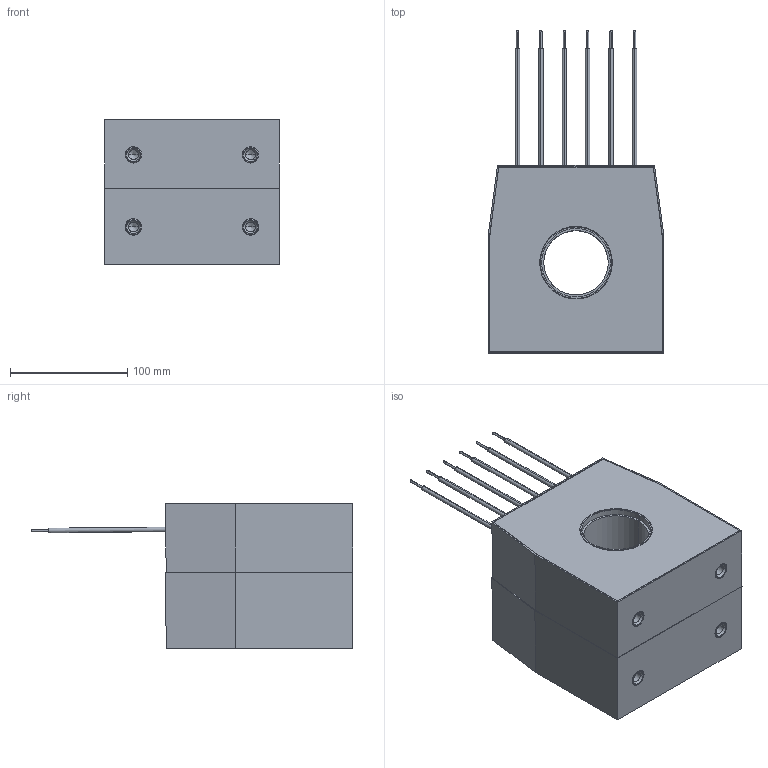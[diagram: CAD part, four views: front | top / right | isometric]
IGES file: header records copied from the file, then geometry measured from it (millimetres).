
Start section: IGES file generated from Kompas f.0 for Windows drawing by the IGES translator from Ascon Ltd., translator version IGESOUT-5.1.
Global section: file name: C:\Ðàáîòà\Èçâåùåíèÿ 5\ÒØÏ-ÍÒÇ-0.66-61...,71...,81... (ñáîðíûé)\Âåðñèÿ îò 21.05.24\3D ìîäåëü\ÒØÏ-ÍÒÇ-0,66-72Ñ\ÒØÏ-ÍÒÇ-0,66-72Ñ (55 ìì, 2-é ãàáàðèò).igs; native system: Kompas( 32 bit ) for Windows; preprocessor: 1.0; author: 123; organization: Microsoft; date: -17750727:093905; units: millimetre
Bounding box: 150 x 274.82 x 123.5 mm (x, y, z)
Volume: 493845.5 mm3; surface area: 310520.8 mm2
Topology: 15 solids, 15 shells, 280 faces, 625 edges, 393 vertices
Faces by surface type: revolution 162, bspline 118
